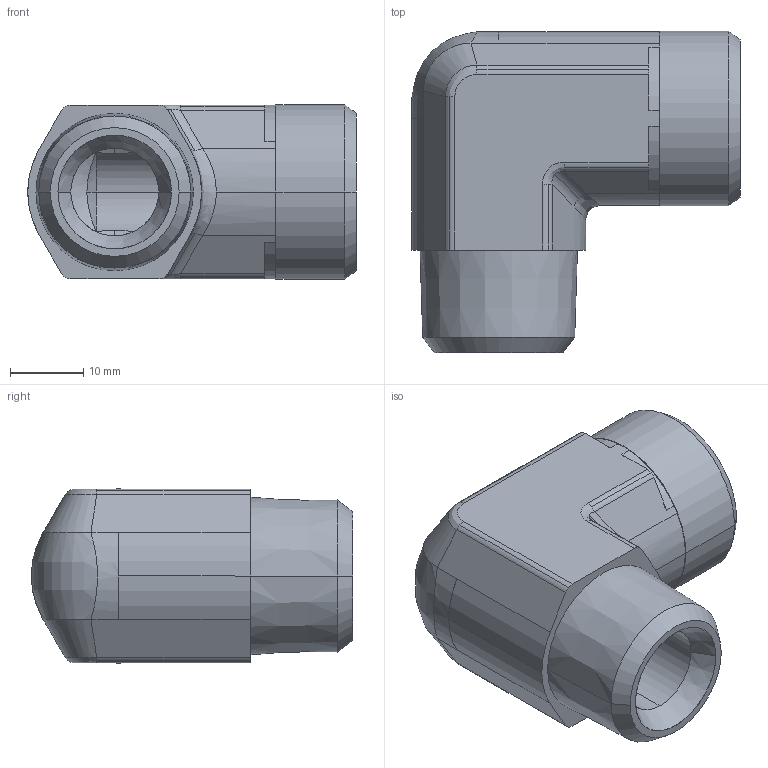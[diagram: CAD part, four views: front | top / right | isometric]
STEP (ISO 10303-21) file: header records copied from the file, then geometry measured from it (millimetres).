
FILE_DESCRIPTION((''),'2;1');
FILE_NAME('102019.stp','2007-10-30T16:27:36',(''),(''),'AutoCAD STEP 2000i','AutoCAD 2000i',', , ');
FILE_SCHEMA(('CONFIG_CONTROL_DESIGN'));
Length unit declared in the file: millimetre
Products named in the file (2): 102019.0; 3090#0
Assembly tree (1 placements, depth 2):
  102019.0
    3090#0
Bounding box: 44.88 x 43.92 x 23.85 mm (x, y, z)
Volume: 19949.5 mm3; surface area: 7842.4 mm2
Topology: 1 solids, 1 shells, 107 faces, 252 edges, 149 vertices
Faces by surface type: cylinder 46, plane 26, cone 21, bspline 14
Entity records: 3948 total; most frequent: CARTESIAN_POINT 1372, DIRECTION 551, ORIENTED_EDGE 504, EDGE_CURVE 252, AXIS2_PLACEMENT_3D 224, VERTEX_POINT 149, CIRCLE 111, EDGE_LOOP 111
